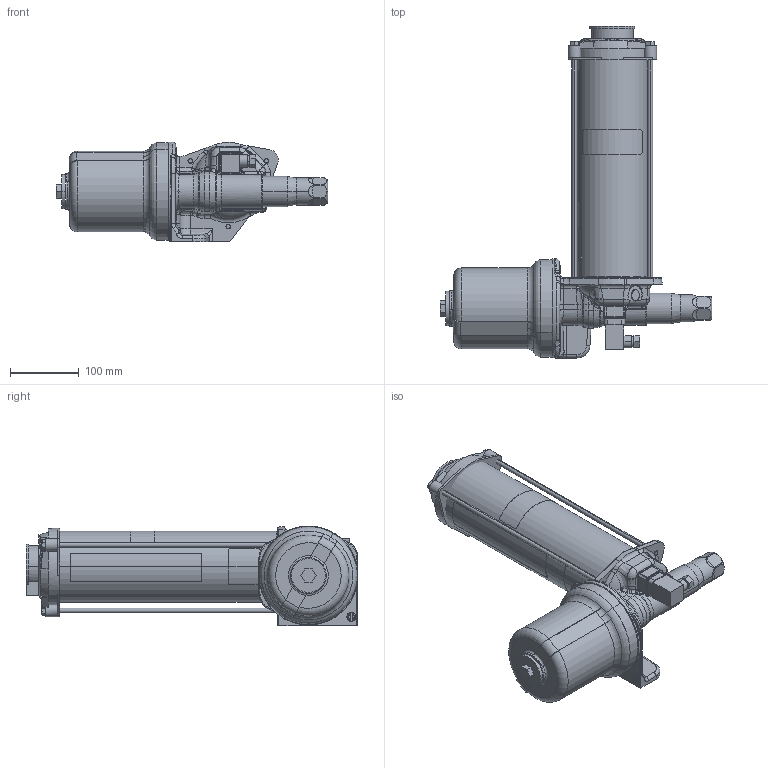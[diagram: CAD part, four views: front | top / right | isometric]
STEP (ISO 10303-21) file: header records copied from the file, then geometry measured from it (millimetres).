
FILE_DESCRIPTION((''),'2;1');
FILE_NAME('17C752-EN-P_PRT','2024-03-22T09:52:36',('qtmwp1'),(''),'CREO PARAMETRIC BY PTC INC, 2023424','CREO PARAMETRIC BY PTC INC, 2023424','');
FILE_SCHEMA(('CONFIG_CONTROL_DESIGN'));
Length unit declared in the file: inch
Products named in the file (1): 17C752-EN-P_PRT
Bounding box: 393.59 x 481.1 x 144.86 mm (x, y, z)
Surface area: 383621.6 mm2 (no closed solid volume)
Topology: 0 solids, 46 shells, 631 faces, 1790 edges, 1153 vertices
Faces by surface type: plane 266, cylinder 139, bspline 120, cone 74, torus 31, sphere 1
Entity records: 26689 total; most frequent: CARTESIAN_POINT 11933, ORIENTED_EDGE 3165, DIRECTION 2704, EDGE_CURVE 1789, VERTEX_POINT 1153, AXIS2_PLACEMENT_3D 1024, VECTOR 656, LINE 656
